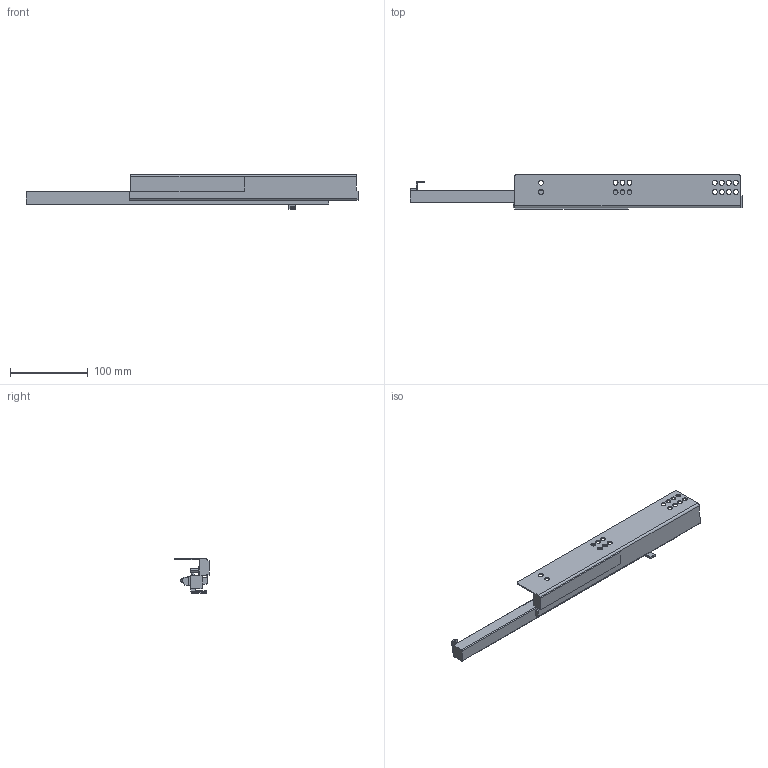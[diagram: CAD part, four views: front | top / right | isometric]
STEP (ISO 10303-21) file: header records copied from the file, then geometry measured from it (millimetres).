
FILE_DESCRIPTION (( 'STEP AP203' ), '1' );
FILE_NAME ('GG10400H-L-DTC3D-close.STEP', '2021-07-02T00:58:34', ( 'df' ), ( 'Microsoft' ), 'SwSTEP 2.0', 'SolidWorks 2018', '' );
FILE_SCHEMA (( 'CONFIG_CONTROL_DESIGN' ));
Length unit declared in the file: millimetre
Products named in the file (1): GG10400H-L-DTC3D-close
Bounding box: 428 x 44.1 x 44.73 mm (x, y, z)
Volume: 195450 mm3; surface area: 70127 mm2
Topology: 1 solids, 1 shells, 164 faces, 459 edges, 297 vertices
Faces by surface type: cylinder 80, plane 76, bspline 4, sphere 2, cone 2
Entity records: 5482 total; most frequent: CARTESIAN_POINT 1085, ORIENTED_EDGE 914, DIRECTION 899, EDGE_CURVE 457, AXIS2_PLACEMENT_3D 311, VERTEX_POINT 297, LINE 277, VECTOR 277
